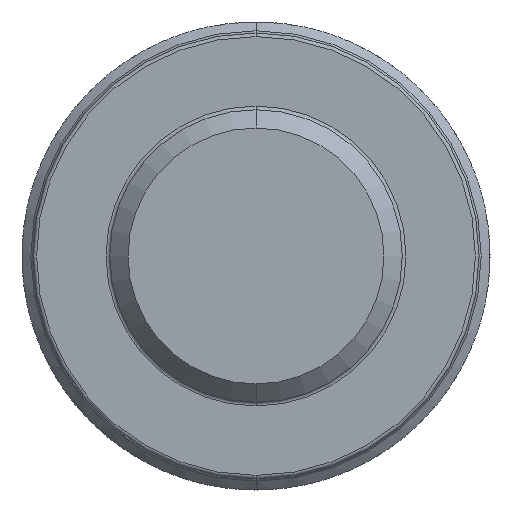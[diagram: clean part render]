
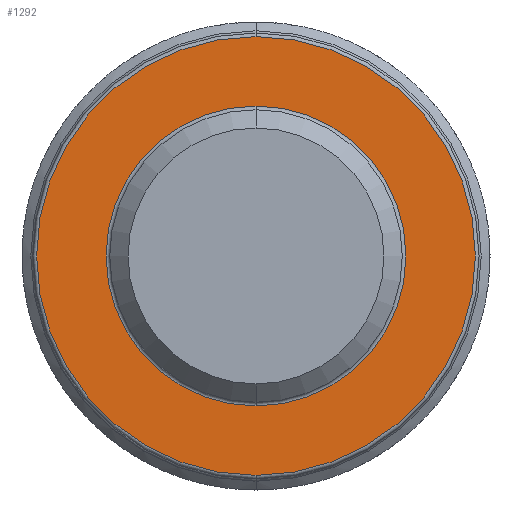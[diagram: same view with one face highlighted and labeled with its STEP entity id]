
A CAD part, front view. The second image highlights one B-rep face of the part: STEP entity #1292.
In plain terms, the highlighted planar face has unit normal (0, -1, 0).
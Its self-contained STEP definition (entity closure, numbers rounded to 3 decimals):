
#124 = EDGE_CURVE ( 'NONE', #4484, #1780, #3268, .T. ) ;
#460 = CARTESIAN_POINT ( 'NONE',  ( 0., -8., 6. ) ) ;
#482 = EDGE_CURVE ( 'NONE', #1780, #4484, #6772, .T. ) ;
#703 = DIRECTION ( 'NONE',  ( 0., 0., -1. ) ) ;
#1292 = ADVANCED_FACE ( 'NONE', ( #6123, #3606 ), #6166, .T. ) ;
#1780 = VERTEX_POINT ( 'NONE', #3618 ) ;
#1927 = CARTESIAN_POINT ( 'NONE',  ( 0., -8., 4.1 ) ) ;
#1937 = DIRECTION ( 'NONE',  ( 0., 1., 0. ) ) ;
#3089 = DIRECTION ( 'NONE',  ( 0., -1., 0. ) ) ;
#3115 = CARTESIAN_POINT ( 'NONE',  ( 0., -8., 0. ) ) ;
#3129 = VERTEX_POINT ( 'NONE', #6496 ) ;
#3268 = CIRCLE ( 'NONE', #4338, 6. ) ;
#3606 = FACE_OUTER_BOUND ( 'NONE', #4963, .T. ) ;
#3618 = CARTESIAN_POINT ( 'NONE',  ( 0., -8., -6. ) ) ;
#3664 = EDGE_CURVE ( 'NONE', #3129, #7835, #7921, .T. ) ;
#4154 = DIRECTION ( 'NONE',  ( 0., -1., 0. ) ) ;
#4338 = AXIS2_PLACEMENT_3D ( 'NONE', #6134, #4154, #5379 ) ;
#4484 = VERTEX_POINT ( 'NONE', #460 ) ;
#4684 = DIRECTION ( 'NONE',  ( 0., -1., 0. ) ) ;
#4746 = ORIENTED_EDGE ( 'NONE', *, *, #4881, .T. ) ;
#4833 = AXIS2_PLACEMENT_3D ( 'NONE', #3115, #8170, #7544 ) ;
#4881 = EDGE_CURVE ( 'NONE', #7835, #3129, #5112, .T. ) ;
#4963 = EDGE_LOOP ( 'NONE', ( #6341, #5776 ) ) ;
#4988 = DIRECTION ( 'NONE',  ( 0., 0., -1. ) ) ;
#5112 = CIRCLE ( 'NONE', #7669, 4.1 ) ;
#5379 = DIRECTION ( 'NONE',  ( 0., 0., -1. ) ) ;
#5535 = CARTESIAN_POINT ( 'NONE',  ( 4., -8., 0. ) ) ;
#5776 = ORIENTED_EDGE ( 'NONE', *, *, #124, .T. ) ;
#6123 = FACE_BOUND ( 'NONE', #7482, .T. ) ;
#6134 = CARTESIAN_POINT ( 'NONE',  ( 0., -8., 0. ) ) ;
#6166 = PLANE ( 'NONE',  #8115 ) ;
#6341 = ORIENTED_EDGE ( 'NONE', *, *, #482, .T. ) ;
#6496 = CARTESIAN_POINT ( 'NONE',  ( 0., -8., -4.1 ) ) ;
#6581 = CARTESIAN_POINT ( 'NONE',  ( 0., -8., 0. ) ) ;
#6772 = CIRCLE ( 'NONE', #8113, 6. ) ;
#7257 = DIRECTION ( 'NONE',  ( 0., 0., -1. ) ) ;
#7302 = CARTESIAN_POINT ( 'NONE',  ( 0., -8., 0. ) ) ;
#7404 = ORIENTED_EDGE ( 'NONE', *, *, #3664, .T. ) ;
#7482 = EDGE_LOOP ( 'NONE', ( #7404, #4746 ) ) ;
#7544 = DIRECTION ( 'NONE',  ( 0., 0., -1. ) ) ;
#7669 = AXIS2_PLACEMENT_3D ( 'NONE', #6581, #1937, #703 ) ;
#7835 = VERTEX_POINT ( 'NONE', #1927 ) ;
#7921 = CIRCLE ( 'NONE', #4833, 4.1 ) ;
#8113 = AXIS2_PLACEMENT_3D ( 'NONE', #7302, #4684, #7257 ) ;
#8115 = AXIS2_PLACEMENT_3D ( 'NONE', #5535, #3089, #4988 ) ;
#8170 = DIRECTION ( 'NONE',  ( 0., 1., 0. ) ) ;
